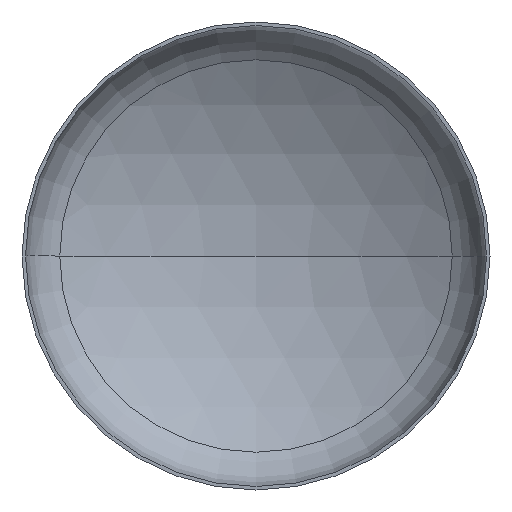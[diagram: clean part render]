
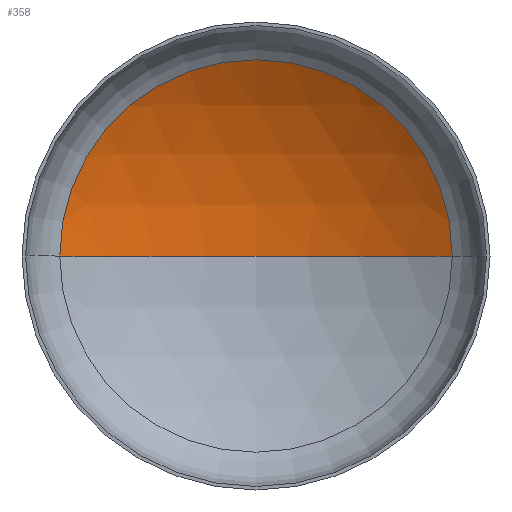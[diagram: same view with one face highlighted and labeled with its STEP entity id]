
A CAD part, front view. The second image highlights one B-rep face of the part: STEP entity #358.
In plain terms, the highlighted spherical face has radius 5200 mm.
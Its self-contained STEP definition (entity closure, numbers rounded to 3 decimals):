
#7 = VERTEX_POINT ( 'NONE', #173 ) ;
#11 = AXIS2_PLACEMENT_3D ( 'NONE', #180, #208, #74 ) ;
#20 = CARTESIAN_POINT ( 'NONE',  ( 0., -3427.094, 0. ) ) ;
#23 = ORIENTED_EDGE ( 'NONE', *, *, #168, .T. ) ;
#34 = VERTEX_POINT ( 'NONE', #155 ) ;
#39 = CARTESIAN_POINT ( 'NONE',  ( 0., -3427.094, 0. ) ) ;
#42 = DIRECTION ( 'NONE',  ( 1., 0., 0. ) ) ;
#46 = DIRECTION ( 'NONE',  ( 0., 0., 1. ) ) ;
#52 = ORIENTED_EDGE ( 'NONE', *, *, #172, .T. ) ;
#64 = VERTEX_POINT ( 'NONE', #288 ) ;
#73 = EDGE_LOOP ( 'NONE', ( #110, #52, #23 ) ) ;
#74 = DIRECTION ( 'NONE',  ( -1., 0., 0. ) ) ;
#94 = AXIS2_PLACEMENT_3D ( 'NONE', #20, #46, #42 ) ;
#101 = AXIS2_PLACEMENT_3D ( 'NONE', #39, #116, #122 ) ;
#107 = AXIS2_PLACEMENT_3D ( 'NONE', #175, #184, #144 ) ;
#110 = ORIENTED_EDGE ( 'NONE', *, *, #174, .F. ) ;
#116 = DIRECTION ( 'NONE',  ( 0., 0., -1. ) ) ;
#119 = CIRCLE ( 'NONE', #94, 5200. ) ;
#122 = DIRECTION ( 'NONE',  ( -1., 0., 0. ) ) ;
#137 = CIRCLE ( 'NONE', #107, 2725.048 ) ;
#144 = DIRECTION ( 'NONE',  ( 1., 0., 0. ) ) ;
#155 = CARTESIAN_POINT ( 'NONE',  ( -2725.048, 1001.689, 0. ) ) ;
#168 = EDGE_CURVE ( 'NONE', #7, #34, #137, .T. ) ;
#172 = EDGE_CURVE ( 'NONE', #64, #7, #393, .T. ) ;
#173 = CARTESIAN_POINT ( 'NONE',  ( 2725.048, 1001.689, 0. ) ) ;
#174 = EDGE_CURVE ( 'NONE', #64, #34, #119, .T. ) ;
#175 = CARTESIAN_POINT ( 'NONE',  ( 0., 1001.689, 0. ) ) ;
#180 = CARTESIAN_POINT ( 'NONE',  ( 0., -3427.094, 0. ) ) ;
#184 = DIRECTION ( 'NONE',  ( 0., -1., 0. ) ) ;
#208 = DIRECTION ( 'NONE',  ( 0., 0., -1. ) ) ;
#288 = CARTESIAN_POINT ( 'NONE',  ( 0., 1772.906, 0. ) ) ;
#355 = FACE_OUTER_BOUND ( 'NONE', #73, .T. ) ;
#358 = ADVANCED_FACE ( 'NONE', ( #355 ), #408, .F. ) ;
#393 = CIRCLE ( 'NONE', #101, 5200. ) ;
#408 = SPHERICAL_SURFACE ( 'NONE', #11, 5200. ) ;
